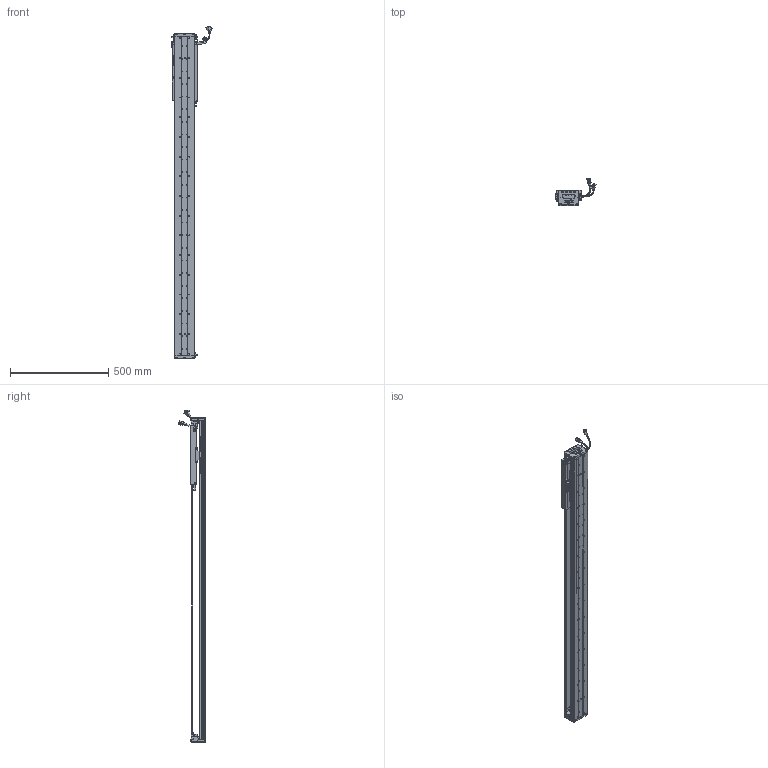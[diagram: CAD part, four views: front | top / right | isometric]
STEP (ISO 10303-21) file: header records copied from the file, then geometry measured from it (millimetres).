
FILE_DESCRIPTION (( 'STEP AP203' ), '1' );
FILE_NAME ('Z4-RY100D-1-L500-B-K.SLDASM_1250.step', '2021-05-17T03:02:42', ( '盈信电脑' ), ( '东莞市道滘镇水果街19号' ), 'SwSTEP 2.0', 'SolidWorks 2016', '' );
FILE_SCHEMA (( 'CONFIG_CONTROL_DESIGN' ));
Length unit declared in the file: millimetre
Products named in the file (36): HARNESS-Part-2; SCREW-M1.6-1; Z4-RY100D-500-倰第菁釱_1250; COVER; SCREW-M1.7-1; LABEL-Part-1; SCALE-Part-1; Z-RY100D覜茼んえ; SCALE-Part-2; SCREW-M1.6; SCREW-M1.6-2; PBU_SHEET; 榋妏寠巭燃_暯_M2_2; SCREW-M1.7; HARNESS; Z-RY100D詩湍奻揤裔; 覜茼ん672; Z4-RY100D-1-L500-B-K.SLDASM_1250; Z4-RY100铝滑块（21款）; HARNESS-Part-1; Z-RY100D詩湍狟揤裔; 140雄赽晤鎢ん堤盄; SCREW-M1.6-3; Z-100詩湍傷裔啣; SEAL; 140蚥薯蝶輸; Z4-RY100-L500詩湍90mm遵_1250; COVER-Part-1; LABEL; 100-Z-臏賑輸盄裔(21遴); SCALE; 080黍杅芛假蚾釱21遴; SHIELDPLATE; PSLH080_PSLF2; SEAL-Part-1; HOLDER0
Assembly tree (43 placements, depth 4):
  Z4-RY100D-1-L500-B-K.SLDASM_1250
    Z4-RY100D-500-倰第菁釱_1250
    Z4-RY100铝滑块（21款）
    PSLH080_PSLF2
      SCALE
        SCALE-Part-1
        SCALE-Part-2
      HARNESS
        HARNESS-Part-1
        HARNESS-Part-2
      LABEL
        LABEL-Part-1
      COVER
        COVER-Part-1
      SEAL
        SEAL-Part-1
      榋妏寠巭燃_暯_M2_2
      SHIELDPLATE
      SCREW-M1.7
      SCREW-M1.7-1
      PBU_SHEET
      SCREW-M1.6
      SCREW-M1.6-1
      SCREW-M1.6-2
      SCREW-M1.6-3
      HOLDER0
    080黍杅芛假蚾釱21遴
    Z-100詩湍傷裔啣  x2
    140蚥薯蝶輸  x2
    覜茼ん672  x3
    Z-RY100D覜茼んえ  x3
    100-Z-臏賑輸盄裔(21遴)
    140雄赽晤鎢ん堤盄
    Z4-RY100-L500詩湍90mm遵_1250
    Z-RY100D詩湍狟揤裔  x2
    Z-RY100D詩湍奻揤裔  x2
Bounding box: 205.83 x 136.11 x 1685.43 mm (x, y, z)
Volume: 3421280.4 mm3; surface area: 1310527.6 mm2
Topology: 38 solids, 38 shells, 2754 faces, 7339 edges, 4660 vertices
Faces by surface type: cylinder 1258, plane 1148, cone 226, torus 69, bspline 53
Entity records: 76811 total; most frequent: CARTESIAN_POINT 16138, DIRECTION 12263, ORIENTED_EDGE 11558, EDGE_CURVE 5779, AXIS2_PLACEMENT_3D 4553, VERTEX_POINT 3728, LINE 3157, VECTOR 3157
